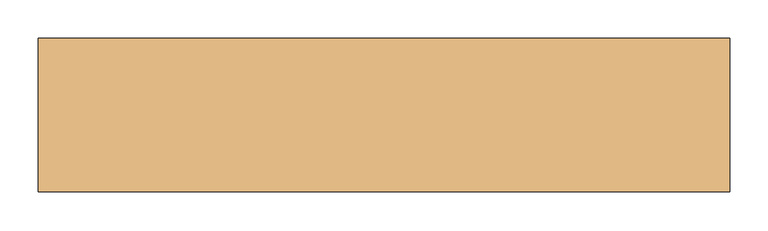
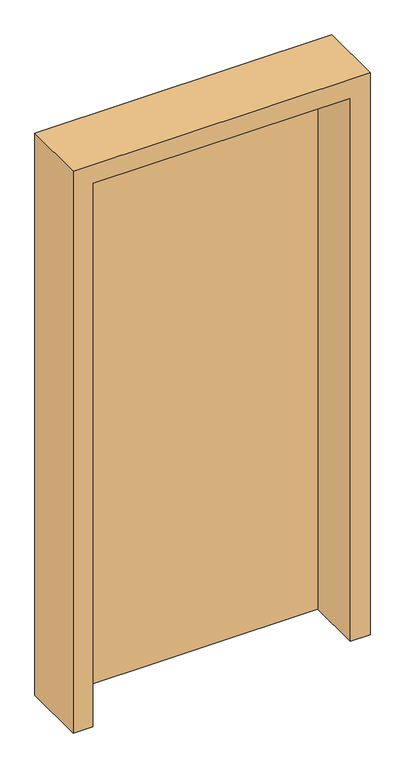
"""IFC4 building model written with IfcOpenShell, lengths in millimetres: door geometry, DR000-문 : DR000-미닫이 문 900x1800."""

import ifcopenshell
import ifcopenshell.guid

model = None  # the IFC model being written
_history = None  # IfcOwnerHistory: only IFC2X3 demands one
_inside = {}  # id of a spatial element -> (the spatial element, [elements in it])
_under = {}  # id of a project, library or spatial element -> (it, [spatial elements below it])
_declared = {}  # id of a project -> (the project, [libraries it declares])
_typed = {}  # id of a type object -> (the type object, [elements of that type])
_made_of = {}  # id of a material, layer set ... -> (it, [elements and type objects made of it])


def new_model(schema):
    """Start an empty IFC model of exactly this schema.

    Asked for "IFC4X3", IfcOpenShell would pick the latest addendum, in which some entities
    have other attributes; the version numbers below select the first issue.
    IFC2X3 requires an IfcOwnerHistory on every rooted entity: one is made here for all.
    """
    global model, _history
    if schema == "IFC4X3":
        model = ifcopenshell.file(schema_version=(4, 3, 0, 0))
    else:
        model = ifcopenshell.file(schema=schema)
    _inside.clear()
    _under.clear()
    _declared.clear()
    _typed.clear()
    _made_of.clear()
    _history = None
    if model.schema == "IFC2X3":
        org = make("IfcOrganization", Name="unknown")
        user = make(
            "IfcPersonAndOrganization",
            ThePerson=make("IfcPerson", FamilyName="unknown"),
            TheOrganization=org,
        )
        app = make(
            "IfcApplication",
            ApplicationDeveloper=org,
            Version="unknown",
            ApplicationFullName="unknown",
            ApplicationIdentifier="unknown",
        )
        _history = make(
            "IfcOwnerHistory",
            OwningUser=user,
            OwningApplication=app,
            ChangeAction="ADDED",
            CreationDate=0,
        )
    return model


def make(cls, **values):
    """One entity of the class cls with the attributes given. An attribute that is None is left unset."""
    return model.create_entity(
        cls, **{name: value for name, value in values.items() if value is not None}
    )


def rooted(cls, **values):
    """An entity with a GlobalId (a new one), such as an element, a storey or a relation."""
    return make(cls, GlobalId=ifcopenshell.guid.new(), OwnerHistory=_history, **values)


def si_unit(unit_type, name, prefix=None):
    """IfcSIUnit, for example si_unit("LENGTHUNIT", "METRE", prefix="MILLI")."""
    return make("IfcSIUnit", UnitType=unit_type, Prefix=prefix, Name=name)


def assignment(units):
    """IfcUnitAssignment: the units of a project."""
    return None if units is None else make("IfcUnitAssignment", Units=units)


def point(xyz):
    """IfcCartesianPoint."""
    return None if xyz is None else make("IfcCartesianPoint", Coordinates=xyz)


def direction(xyz):
    """IfcDirection."""
    return None if xyz is None else make("IfcDirection", DirectionRatios=xyz)


def frame(location, z_axis=None, x_axis=None):
    """IfcAxis2Placement3D, a coordinate frame: its origin and axes. An axis left out is left unset."""
    return make(
        "IfcAxis2Placement3D",
        Location=point(location),
        Axis=direction(z_axis),
        RefDirection=direction(x_axis),
    )


def origin():
    """The frame at (0, 0, 0) with its axes left unset."""
    return frame((0.0, 0.0, 0.0))


def origin_with_axes():
    """The frame at (0, 0, 0) with the z axis (0, 0, 1) and the x axis (1, 0, 0) written out."""
    return frame((0.0, 0.0, 0.0), z_axis=(0.0, 0.0, 1.0), x_axis=(1.0, 0.0, 0.0))


def place(relative_to, where):
    """IfcLocalPlacement: puts the frame where relative to a parent placement (None: the world)."""
    return make(
        "IfcLocalPlacement", PlacementRelTo=relative_to, RelativePlacement=where
    )


def context(
    kind, dimensions, precision=None, world=None, true_north=None, identifier=None
):
    """IfcGeometricRepresentationContext, for example the 3D "Model" context."""
    return make(
        "IfcGeometricRepresentationContext",
        ContextIdentifier=identifier,
        ContextType=kind,
        CoordinateSpaceDimension=dimensions,
        Precision=precision,
        WorldCoordinateSystem=world,
        TrueNorth=true_north,
    )


def project(units=None, contexts=None):
    """IfcProject with its units and contexts."""
    return rooted(
        "IfcProject",
        Name="project",
        RepresentationContexts=contexts,
        UnitsInContext=assignment(units),
    )


def spatial(cls, under=None, at=None, **own):
    """A site, building, storey or space (cls), placed at a placement, below another one or the project."""
    s = rooted(cls, ObjectPlacement=at, **own)
    if under is not None:
        _under.setdefault(under.id(), (under, []))[1].append(s)
    return s


def polyline(points):
    """IfcPolyline through the points."""
    return make("IfcPolyline", Points=[point(p) for p in points])


def outline(outer, holes=None, kind="AREA"):
    """IfcArbitraryClosedProfileDef: a profile drawn as a closed curve; with holes, ...WithVoids."""
    if holes is None:
        return make("IfcArbitraryClosedProfileDef", ProfileType=kind, OuterCurve=outer)
    return make(
        "IfcArbitraryProfileDefWithVoids",
        ProfileType=kind,
        OuterCurve=outer,
        InnerCurves=holes,
    )


def extrude(swept, where, along, depth):
    """IfcExtrudedAreaSolid: the profile swept, set in the frame where, extruded along a direction by depth."""
    return make(
        "IfcExtrudedAreaSolid",
        SweptArea=swept,
        Position=where,
        ExtrudedDirection=direction(along),
        Depth=depth,
    )


def faces_of(points, faces, orient=None, outer=None):
    """IfcFace entities. A face is a list of loops; a loop is a list of indices into points, from 0.

    orient and outer hold one flag for each loop. By default every Orientation is true, the
    first loop of a face is its IfcFaceOuterBound and the others are IfcFaceBound.
    """
    made = []
    for i, loops in enumerate(faces):
        bounds = []
        for j, loop in enumerate(loops):
            is_outer = j == 0 if outer is None else outer[i][j]
            bounds.append(
                make(
                    "IfcFaceOuterBound" if is_outer else "IfcFaceBound",
                    Bound=make("IfcPolyLoop", Polygon=[points[k] for k in loop]),
                    Orientation=True if orient is None else orient[i][j],
                )
            )
        made.append(make("IfcFace", Bounds=bounds))
    return made


def faceted_brep(points, faces, orient=None, outer=None, voids=None):
    """IfcFacetedBrep: a solid bounded by flat faces; with voids (closed shells), ...WithVoids."""
    shared = [point(p) for p in points]
    hull = make("IfcClosedShell", CfsFaces=faces_of(shared, faces, orient, outer))
    if voids is None:
        return make("IfcFacetedBrep", Outer=hull)
    return make(
        "IfcFacetedBrepWithVoids",
        Outer=hull,
        Voids=[
            make(cls, CfsFaces=faces_of(shared, fs, o, b)) for cls, fs, o, b in voids
        ],
    )


def shape(context_of_items, identifier, shape_type, items):
    """IfcShapeRepresentation: the items that make up one representation, for example the "Body"."""
    return make(
        "IfcShapeRepresentation",
        ContextOfItems=context_of_items,
        RepresentationIdentifier=identifier,
        RepresentationType=shape_type,
        Items=items,
    )


def source(mapping_origin, context_of_items, identifier, shape_type, items):
    """IfcRepresentationMap: a shape defined once, which mapped items show again and again."""
    return make(
        "IfcRepresentationMap",
        MappingOrigin=mapping_origin,
        MappedRepresentation=shape(context_of_items, identifier, shape_type, items),
    )


def transform(
    local_origin,
    x_axis=None,
    y_axis=None,
    z_axis=None,
    scale=None,
    scale2=None,
    scale3=None,
    uniform=True,
):
    """IfcCartesianTransformationOperator3D, or its non-uniform kind. x_axis, y_axis, z_axis: its Axis1, 2, 3."""
    if uniform:
        return make(
            "IfcCartesianTransformationOperator3D",
            Axis1=direction(x_axis),
            Axis2=direction(y_axis),
            LocalOrigin=point(local_origin),
            Scale=scale,
            Axis3=direction(z_axis),
        )
    return make(
        "IfcCartesianTransformationOperator3DnonUniform",
        Axis1=direction(x_axis),
        Axis2=direction(y_axis),
        LocalOrigin=point(local_origin),
        Scale=scale,
        Axis3=direction(z_axis),
        Scale2=scale2,
        Scale3=scale3,
    )


def mapped(mapping_source, mapping_target):
    """IfcMappedItem: shows the shape of a source again, moved by a transform."""
    return make(
        "IfcMappedItem", MappingSource=mapping_source, MappingTarget=mapping_target
    )


def made_of(thing, what):
    """Note that an element or type object is made of a material, layer set ...; save() writes the relation."""
    if what is not None:
        _made_of.setdefault(what.id(), (what, []))[1].append(thing)
    return thing


def element(
    cls,
    number,
    at=None,
    inside=None,
    cuts=None,
    type_object=None,
    material=None,
    context=None,
    identifier="Body",
    shape_type=None,
    held_by="IfcProductDefinitionShape",
    body=None,
    shapes=None,
    **own,
):
    """One element of the class cls, such as IfcWall. Its Tag is "e" and its number.

    at: its placement. inside: the storey or other place that contains it. cuts: it is an
    opening in that element (IfcRelVoidsElement). A single representation is given by context,
    identifier, shape_type and body (its items); several are given by shapes. held_by: the class
    of the entity that holds the representations. save() writes the other relations.
    """
    e = rooted(cls, Tag="e%d" % number, ObjectPlacement=at, **own)
    if body is not None:
        shapes = [shape(context, identifier, shape_type, body)]
    if shapes is not None:
        e.Representation = make(held_by, Representations=shapes)
    if inside is not None:
        _inside.setdefault(inside.id(), (inside, []))[1].append(e)
    if cuts is not None:
        rooted(
            "IfcRelVoidsElement", RelatingBuildingElement=cuts, RelatedOpeningElement=e
        )
    if type_object is not None:
        _typed.setdefault(type_object.id(), (type_object, []))[1].append(e)
    return made_of(e, material)


def aggregate(whole, parts):
    """IfcRelAggregates: a whole, such as a stair, and the parts it consists of."""
    return rooted("IfcRelAggregates", RelatingObject=whole, RelatedObjects=parts)


def save(model, path):
    """Write the relations noted so far, then the file.

    IfcRelAggregates (storeys below a building ...), IfcRelContainedInSpatialStructure (elements
    in a storey), IfcRelDefinesByType, IfcRelAssociatesMaterial and IfcRelDeclares: one each for
    every whole, place, type object, material and project.
    """
    for whole, parts in _under.values():
        aggregate(whole, parts)
    for where, things in _inside.values():
        rooted(
            "IfcRelContainedInSpatialStructure",
            RelatedElements=things,
            RelatingStructure=where,
        )
    for kind, things in _typed.values():
        rooted("IfcRelDefinesByType", RelatedObjects=things, RelatingType=kind)
    for what, things in _made_of.values():
        rooted("IfcRelAssociatesMaterial", RelatedObjects=things, RelatingMaterial=what)
    for by, libraries in _declared.values():
        rooted("IfcRelDeclares", RelatingContext=by, RelatedDefinitions=libraries)
    model.write(path)


def door_f2395513(model_context):
    return source(origin(), model_context, "Body", "SolidModel", [
        extrude(outline(polyline([(420.0, 100.0), (420.0, 70.0), (-420.0, 70.0), (-420.0, 100.0), (420.0, 100.0)])), origin_with_axes(), (0.0, 0.0, 1.0), 1770.0),
        faceted_brep([(-450.0, -100.0, 0.0), (-450.0, 100.0, 0.0), (-420.0, 100.0, 0.0), (-420.0, 70.0, 0.0), (-390.0, 70.0, 0.0), (-390.0, -100.0, 0.0), (-450.0, -100.0, 1800.0), (-450.0, 100.0, 1800.0), (450.0, 100.0, 1800.0), (450.0, 100.0, 0.0), (420.0, 100.0, 0.0), (420.0, 100.0, 1770.0), (-420.0, 100.0, 1770.0), (-420.0, 70.0, 1770.0), (420.0, 70.0, 1770.0), (420.0, 70.0, 0.0), (390.0, 70.0, 0.0), (390.0, 70.0, 1740.0), (-390.0, 70.0, 1740.0), (-390.0, -100.0, 1740.0), (390.0, -100.0, 1740.0), (390.0, -100.0, 0.0), (450.0, -100.0, 0.0), (450.0, -100.0, 1800.0)], [[[0, 1, 2, 3, 4, 5]], [[1, 0, 6, 7]], [[2, 1, 7, 8, 9, 10, 11, 12]], [[3, 2, 12, 13]], [[4, 3, 13, 14, 15, 16, 17, 18]], [[5, 4, 18, 19]], [[0, 5, 19, 20, 21, 22, 23, 6]], [[7, 6, 23, 8]], [[13, 12, 11, 14]], [[19, 18, 17, 20]], [[22, 21, 16, 15, 10, 9]], [[8, 23, 22, 9]], [[14, 11, 10, 15]], [[20, 17, 16, 21]]]),
    ])


if __name__ == "__main__":
    model = new_model("IFC4")
    model_context = context("Model", 3, world=origin())
    ifc_project = project(units=[si_unit("LENGTHUNIT", "METRE", prefix="MILLI")], contexts=[model_context])
    site = spatial("IfcSite", under=ifc_project)
    building = spatial("IfcBuilding", under=site)
    placement = place(None, origin())
    door_shape = door_f2395513(model_context)
    element("IfcDoor", 1, ObjectType="DR000-문 : DR000-미닫이 문 900x1800", at=placement, inside=building, context=model_context, shape_type="MappedRepresentation", body=[
        mapped(door_shape, transform((0.0, 0.0, 0.0), x_axis=(1.0, 0.0, 0.0), y_axis=(0.0, 1.0, 0.0), z_axis=(0.0, 0.0, 1.0))),
    ])
    save(model, "model.ifc")
